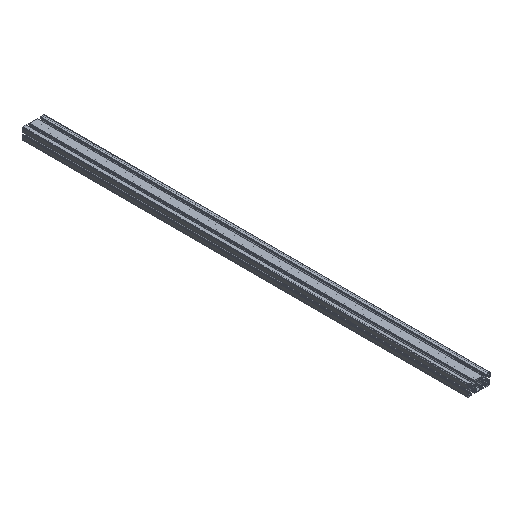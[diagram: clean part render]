
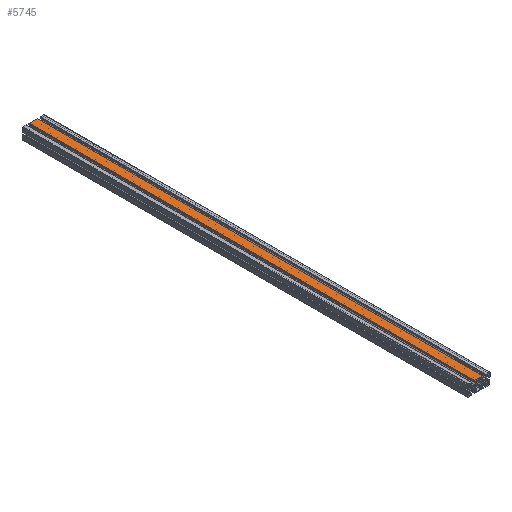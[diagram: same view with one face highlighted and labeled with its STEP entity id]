
A CAD part, isometric view. The second image highlights one B-rep face of the part: STEP entity #5745.
In plain terms, the highlighted planar face has unit normal (0, 0, 1).
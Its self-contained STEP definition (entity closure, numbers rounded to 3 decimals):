
#366 = PLANE ( 'NONE',  #5049 ) ;
#836 = CARTESIAN_POINT ( 'NONE',  ( 9.1, 500., 12.5 ) ) ;
#1002 = VECTOR ( 'NONE', #4151, 1000. ) ;
#1092 = CARTESIAN_POINT ( 'NONE',  ( -9.1, -500., 12.5 ) ) ;
#1241 = LINE ( 'NONE', #4917, #1002 ) ;
#1514 = LINE ( 'NONE', #3719, #7208 ) ;
#1914 = VERTEX_POINT ( 'NONE', #1092 ) ;
#2182 = CARTESIAN_POINT ( 'NONE',  ( -9.1, -500., 12.5 ) ) ;
#2200 = DIRECTION ( 'NONE',  ( 1., 0., 0. ) ) ;
#2410 = DIRECTION ( 'NONE',  ( 0., -1., 0. ) ) ;
#3719 = CARTESIAN_POINT ( 'NONE',  ( -9.1, 500., 12.5 ) ) ;
#4151 = DIRECTION ( 'NONE',  ( 0., -1., 0. ) ) ;
#4289 = DIRECTION ( 'NONE',  ( 0., 0., -1. ) ) ;
#4392 = FACE_OUTER_BOUND ( 'NONE', #9398, .T. ) ;
#4450 = ORIENTED_EDGE ( 'NONE', *, *, #8092, .T. ) ;
#4524 = CARTESIAN_POINT ( 'NONE',  ( -9.1, 500., 12.5 ) ) ;
#4684 = ORIENTED_EDGE ( 'NONE', *, *, #9433, .F. ) ;
#4917 = CARTESIAN_POINT ( 'NONE',  ( -9.1, 500., 12.5 ) ) ;
#5032 = LINE ( 'NONE', #2182, #6804 ) ;
#5049 = AXIS2_PLACEMENT_3D ( 'NONE', #8876, #4289, #9643 ) ;
#5392 = ORIENTED_EDGE ( 'NONE', *, *, #6930, .F. ) ;
#5700 = LINE ( 'NONE', #836, #9788 ) ;
#5745 = ADVANCED_FACE ( 'NONE', ( #4392 ), #366, .F. ) ;
#6804 = VECTOR ( 'NONE', #8338, 1000. ) ;
#6930 = EDGE_CURVE ( 'NONE', #6976, #9751, #1514, .T. ) ;
#6976 = VERTEX_POINT ( 'NONE', #4524 ) ;
#7208 = VECTOR ( 'NONE', #2200, 1000. ) ;
#7437 = EDGE_CURVE ( 'NONE', #1914, #8667, #5032, .T. ) ;
#7488 = ORIENTED_EDGE ( 'NONE', *, *, #7437, .T. ) ;
#8092 = EDGE_CURVE ( 'NONE', #6976, #1914, #1241, .T. ) ;
#8262 = CARTESIAN_POINT ( 'NONE',  ( 9.1, 500., 12.5 ) ) ;
#8338 = DIRECTION ( 'NONE',  ( 1., 0., 0. ) ) ;
#8667 = VERTEX_POINT ( 'NONE', #9568 ) ;
#8876 = CARTESIAN_POINT ( 'NONE',  ( -9.1, 500., 12.5 ) ) ;
#9398 = EDGE_LOOP ( 'NONE', ( #7488, #4684, #5392, #4450 ) ) ;
#9433 = EDGE_CURVE ( 'NONE', #9751, #8667, #5700, .T. ) ;
#9568 = CARTESIAN_POINT ( 'NONE',  ( 9.1, -500., 12.5 ) ) ;
#9643 = DIRECTION ( 'NONE',  ( -1., 0., 0. ) ) ;
#9751 = VERTEX_POINT ( 'NONE', #8262 ) ;
#9788 = VECTOR ( 'NONE', #2410, 1000. ) ;
